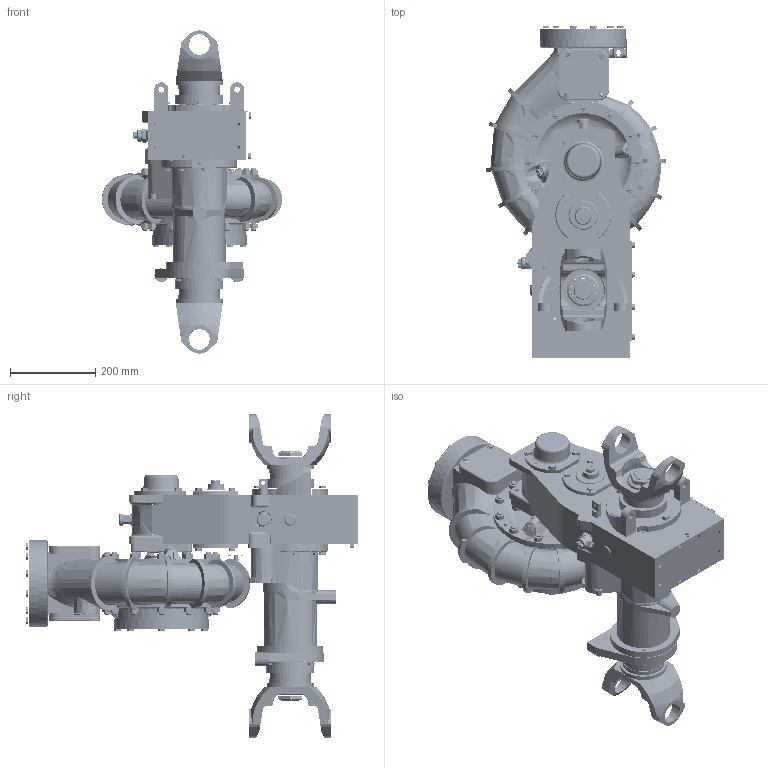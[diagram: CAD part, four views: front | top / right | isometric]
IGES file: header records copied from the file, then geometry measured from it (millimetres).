
Start section:  PTC IGES file: dld0625.igs
Global section: file name: dld0625.igs; native system: Creo Parametric by Parametric Technology Corporation; preprocessor: 2013150; author: SMS; organization: Unknown; date: 20140325.112441; units: inch
Bounding box: 422.68 x 778.1 x 757.3 mm (x, y, z)
Surface area: 2411601.9 mm2 (no closed solid volume)
Topology: 0 solids, 0 shells, 3402 faces, 17827 edges, 17813 vertices
Faces by surface type: revolution 1746, bspline 1525, extrusion 131
